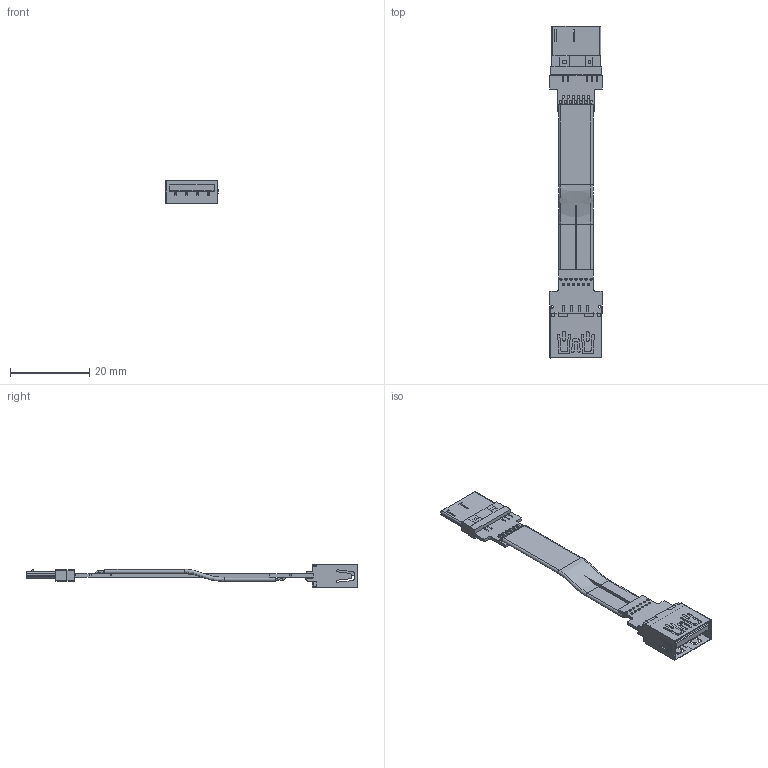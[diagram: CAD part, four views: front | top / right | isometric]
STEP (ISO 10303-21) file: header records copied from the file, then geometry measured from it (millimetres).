
FILE_DESCRIPTION(('Open CASCADE Model'),'2;1');
FILE_NAME('Open CASCADE Shape Model','2022-04-17T17:12:28',('Author'),( 'Open CASCADE'),'Open CASCADE STEP processor 6.8','Open CASCADE 6.8' ,'Unknown');
FILE_SCHEMA(('AUTOMOTIVE_DESIGN { 1 0 10303 214 1 1 1 1 }'));
Length unit declared in the file: millimetre
Products named in the file (53): PCB; Board; Open CASCADE STEP translator 6.8 4.1.1; _1; USB_傻遴20211224(5); Designator22; micro_usb_3.0; Free-Models; cable13-US1A
Assembly tree (52 placements, depth 3):
  PCB
    Board
      Open CASCADE STEP translator 6.8 4.1.1
    _1
      USB_傻遴20211224(5)
      USB_傻遴20211224(5)
      USB_傻遴20211224(5)
      USB_傻遴20211224(5)
      USB_傻遴20211224(5)
      USB_傻遴20211224(5)
      USB_傻遴20211224(5)
      USB_傻遴20211224(5)
      USB_傻遴20211224(5)
      USB_傻遴20211224(5)
      USB_傻遴20211224(5)
      USB_傻遴20211224(5)
      USB_傻遴20211224(5)
      USB_傻遴20211224(5)
      USB_傻遴20211224(5)
      USB_傻遴20211224(5)
      USB_傻遴20211224(5)
      USB_傻遴20211224(5)
      USB_傻遴20211224(5)
    Designator22
      micro_usb_3.0
    Free-Models
      cable13-US1A
      cable13-US1A
      cable13-US1A
      cable13-US1A
      cable13-US1A
      cable13-US1A
      cable13-US1A
      cable13-US1A
      cable13-US1A
      cable13-US1A
      cable13-US1A
      cable13-US1A
      cable13-US1A
      cable13-US1A
      cable13-US1A
      cable13-US1A
      cable13-US1A
      cable13-US1A
      cable13-US1A
      cable13-US1A
      cable13-US1A
      cable13-US1A
      cable13-US1A
      cable13-US1A
      cable13-US1A
      cable13-US1A
      cable13-US1A
Bounding box: 13.28 x 83.62 x 6 mm (x, y, z)
Volume: 1202.2 mm3; surface area: 3912 mm2
Topology: 48 solids, 48 shells, 1010 faces, 2582 edges, 1691 vertices
Faces by surface type: plane 608, cylinder 337, bspline 33, torus 26, extrusion 6
Full cylindrical faces by diameter (mm): 0.4 x59, 0.55 x13, 0.6 x13
Entity records: 41329 total; most frequent: CARTESIAN_POINT 6961, DIRECTION 5239, ORIENTED_EDGE 5164, EDGE_CURVE 2582, VECTOR 1747, AXIS2_PLACEMENT_3D 1746, LINE 1741, VERTEX_POINT 1691
